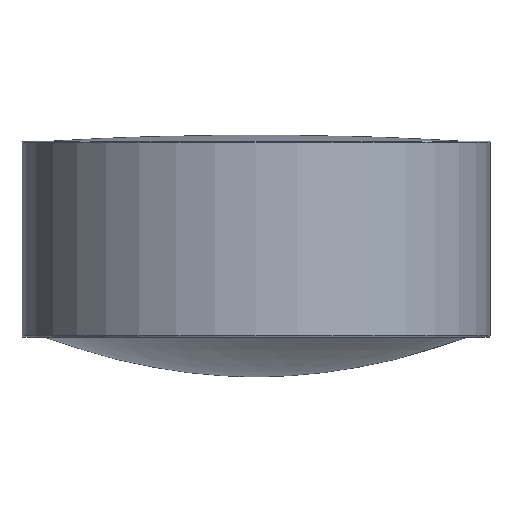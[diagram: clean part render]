
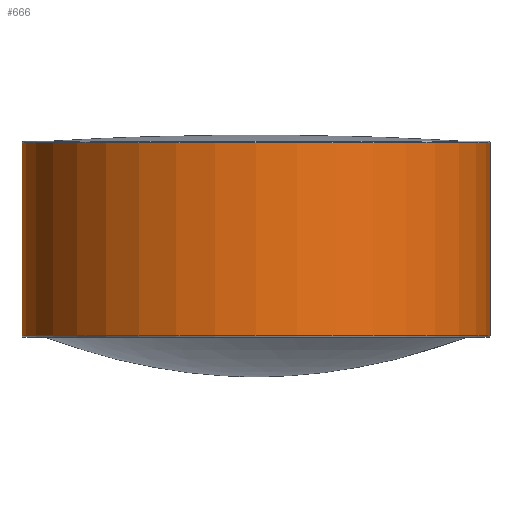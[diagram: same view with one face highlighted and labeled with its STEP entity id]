
A CAD part, front view. The second image highlights one B-rep face of the part: STEP entity #666.
In plain terms, the highlighted cylindrical face has radius 3 mm (diameter 6 mm), a partial arc.
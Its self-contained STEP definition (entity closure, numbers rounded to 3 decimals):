
#186=CARTESIAN_POINT('',(0.,0.,0.525));
#187=DIRECTION('',(0.,0.,-1.));
#188=DIRECTION('',(1.,0.,0.));
#189=AXIS2_PLACEMENT_3D('',#186,#187,#188);
#191=DIRECTION('',(0.,0.,-1.));
#192=VECTOR('',#191,2.478);
#193=CARTESIAN_POINT('',(-3.,0.,3.003));
#194=LINE('',#193,#192);
#195=CARTESIAN_POINT('',(0.,0.,3.003));
#196=DIRECTION('',(0.,0.,-1.));
#197=DIRECTION('',(1.,0.,0.));
#198=AXIS2_PLACEMENT_3D('',#195,#196,#197);
#200=DIRECTION('',(0.,0.,-1.));
#201=VECTOR('',#200,2.478);
#202=CARTESIAN_POINT('',(3.,0.,3.003));
#203=LINE('',#202,#201);
#423=CARTESIAN_POINT('',(3.,0.,0.525));
#424=CARTESIAN_POINT('',(-3.,0.,0.525));
#425=VERTEX_POINT('',#423);
#426=VERTEX_POINT('',#424);
#427=CARTESIAN_POINT('',(3.,0.,3.003));
#428=CARTESIAN_POINT('',(-3.,0.,3.003));
#429=VERTEX_POINT('',#427);
#430=VERTEX_POINT('',#428);
#652=CARTESIAN_POINT('',(0.,0.,-0.155));
#653=DIRECTION('',(0.,0.,1.));
#654=DIRECTION('',(-1.,0.,0.));
#655=AXIS2_PLACEMENT_3D('',#652,#653,#654);
#656=CYLINDRICAL_SURFACE('',#655,3.);
#658=ORIENTED_EDGE('',*,*,#657,.T.);
#660=ORIENTED_EDGE('',*,*,#659,.F.);
#661=ORIENTED_EDGE('',*,*,#642,.F.);
#663=ORIENTED_EDGE('',*,*,#662,.T.);
#664=EDGE_LOOP('',(#658,#660,#661,#663));
#665=FACE_OUTER_BOUND('',#664,.F.);
#666=ADVANCED_FACE('',(#665),#656,.T.);
#190=CIRCLE('',#189,3.);
#199=CIRCLE('',#198,3.);
#642=EDGE_CURVE('',#429,#430,#199,.T.);
#657=EDGE_CURVE('',#425,#426,#190,.T.);
#659=EDGE_CURVE('',#430,#426,#194,.T.);
#662=EDGE_CURVE('',#429,#425,#203,.T.);
